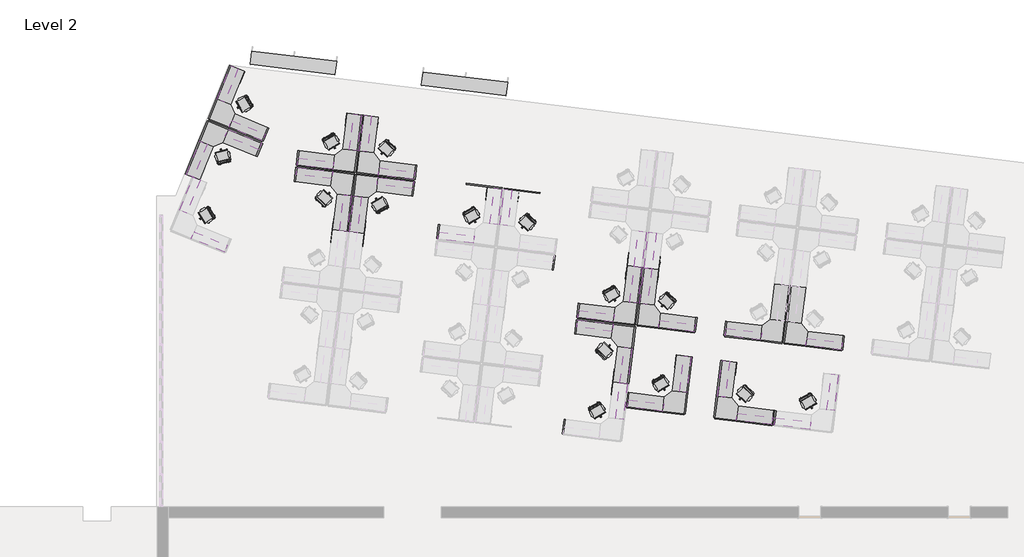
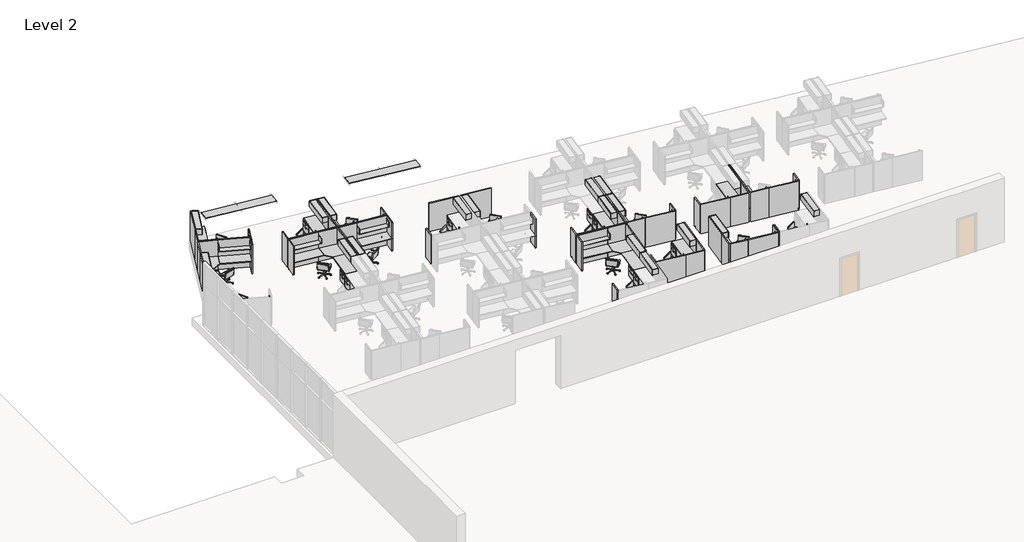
# One storey, part 6 of 7: 99 furniture elements, 2 proxies.
"""IFC4 building model written with IfcOpenShell, lengths in millimetres."""

from ifc_helpers import new_model, si_unit, origin, place, context, project, spatial, transform, mapped, element, save
from components import shading_device_shading_device_a76b5041, chair_task_arms_chair_task_arms_3b363349, chair_task_arms_chair_task_arms_8395c10b, furniture_665347ce, furniture_3ceed070, furniture_00cef8f1, furniture_8d825890, overhead_shelving_module_overhead_shelving_module_3ee17988, overhead_shelving_module_overhead_shelving_module_7dcda1b9, overhead_storage_module_overhead_storage_module_326dc690, overhead_storage_module_overhead_storage_module_bea9f75f, furniture_0333d240, furniture_4718bb14, furniture_45e3acac, furniture_7b33082a

model = new_model("IFC4")

# Units and contexts
model_context = context("Model", 3, world=origin())
ifc_project = project(units=[si_unit("LENGTHUNIT", "METRE", prefix="MILLI")], contexts=[model_context])

# Site, building, storey
site = spatial("IfcSite", under=ifc_project)
building = spatial("IfcBuilding", under=site)
storey = spatial("IfcBuildingStorey", under=building, Name="Level 2", Elevation=3657.6)

# Proxies
placement = place(None, origin())
shading_device_shading_device_shape = shading_device_shading_device_a76b5041(model_context)
element("IfcBuildingElementProxy", 1, Name="Shading Device : Shading Device", ObjectType="Shading Device : Shading Device", at=placement, inside=storey, context=model_context, shape_type="MappedRepresentation", body=[
    mapped(shading_device_shading_device_shape, transform((-25680.4386988, 15088.49944, 4572.0), x_axis=(-0.9925461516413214, 0.12186934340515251, 0.0), y_axis=(-0.12186934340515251, -0.9925461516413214, 0.0), z_axis=(0.0, 0.0, 1.0))),
])
element("IfcBuildingElementProxy", 2, Name="Shading Device : Shading Device", ObjectType="Shading Device : Shading Device", at=placement, inside=storey, context=model_context, shape_type="MappedRepresentation", body=[
    mapped(shading_device_shading_device_shape, transform((-18419.7650903, 14197.0008192, 4572.0), x_axis=(-0.9925461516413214, 0.12186934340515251, 0.0), y_axis=(-0.12186934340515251, -0.9925461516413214, 0.0), z_axis=(0.0, 0.0, 1.0))),
])

# Furniture
chair_task_arms_chair_task_arms_shape = chair_task_arms_chair_task_arms_3b363349(model_context)
element("IfcFurniture", 3, ObjectType="Chair-Task Arms : Chair-Task Arms", at=placement, inside=storey, context=model_context, shape_type="MappedRepresentation", body=[
    mapped(chair_task_arms_chair_task_arms_shape, transform((-23352.4193491, 11903.0432182, 3657.6), x_axis=(-0.7193398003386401, 0.6946583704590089, 0.0), y_axis=(-0.6946583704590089, -0.7193398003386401, 0.0), z_axis=(0.0, 0.0, 1.0))),
])
element("IfcFurniture", 4, ObjectType="Chair-Task Arms : Chair-Task Arms", at=placement, inside=storey, context=model_context, shape_type="MappedRepresentation", body=[
    mapped(chair_task_arms_chair_task_arms_shape, transform((-17391.147875, 8765.5606586, 3657.6), x_axis=(-0.7193398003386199, 0.6946583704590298, 0.0), y_axis=(-0.6946583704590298, -0.7193398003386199, 0.0), z_axis=(0.0, 0.0, 1.0))),
])
element("IfcFurniture", 5, ObjectType="Chair-Task Arms : Chair-Task Arms", at=placement, inside=storey, context=model_context, shape_type="MappedRepresentation", body=[
    mapped(chair_task_arms_chair_task_arms_shape, transform((-14358.0359457, 3469.8400502, 3657.6), x_axis=(0.7193398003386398, -0.6946583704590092, 0.0), y_axis=(0.6946583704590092, 0.7193398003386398, 0.0), z_axis=(0.0, 0.0, 1.0))),
])
element("IfcFurniture", 6, ObjectType="Chair-Task Arms : Chair-Task Arms", at=placement, inside=storey, context=model_context, shape_type="MappedRepresentation", body=[
    mapped(chair_task_arms_chair_task_arms_shape, transform((-11454.6402515, 5426.3927209, 3657.6), x_axis=(-0.7193398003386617, 0.6946583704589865, 0.0), y_axis=(-0.6946583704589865, -0.7193398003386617, 0.0), z_axis=(0.0, 0.0, 1.0))),
])
element("IfcFurniture", 7, ObjectType="Chair-Task Arms : Chair-Task Arms", at=placement, inside=storey, context=model_context, shape_type="MappedRepresentation", body=[
    mapped(chair_task_arms_chair_task_arms_shape, transform((-26255.8150433, 9946.4905474, 3657.6), x_axis=(0.7193398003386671, -0.6946583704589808, 0.0), y_axis=(0.6946583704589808, 0.7193398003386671, 0.0), z_axis=(0.0, 0.0, 1.0))),
])
element("IfcFurniture", 8, ObjectType="Chair-Task Arms : Chair-Task Arms", at=placement, inside=storey, context=model_context, shape_type="MappedRepresentation", body=[
    mapped(chair_task_arms_chair_task_arms_shape, transform((-29421.3744907, 13765.940724, 3657.6), x_axis=(-0.5113844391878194, 0.8593520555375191, 0.0), y_axis=(-0.8593520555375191, -0.5113844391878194, 0.0), z_axis=(0.0, 0.0, 1.0))),
])
element("IfcFurniture", 9, ObjectType="Chair-Task Arms : Chair-Task Arms", at=placement, inside=storey, context=model_context, shape_type="MappedRepresentation", body=[
    mapped(chair_task_arms_chair_task_arms_shape, transform((-31023.8319386, 9042.6474103, 3657.6), x_axis=(-0.5113844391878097, 0.8593520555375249, 0.0), y_axis=(-0.8593520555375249, -0.5113844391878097, 0.0), z_axis=(0.0, 0.0, 1.0))),
])
element("IfcFurniture", 10, ObjectType="Chair-Task Arms : Chair-Task Arms", at=placement, inside=storey, context=model_context, shape_type="MappedRepresentation", body=[
    mapped(chair_task_arms_chair_task_arms_shape, transform((-8151.4574, 1482.5085649, 3657.6), x_axis=(-0.7193398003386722, 0.6946583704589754, 0.0), y_axis=(-0.6946583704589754, -0.7193398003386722, 0.0), z_axis=(0.0, 0.0, 1.0))),
])
chair_task_arms_chair_task_arms_2_shape = chair_task_arms_chair_task_arms_8395c10b(model_context)
element("IfcFurniture", 11, ObjectType="Chair-Task Arms : Chair-Task Arms", at=placement, inside=storey, context=model_context, shape_type="MappedRepresentation", body=[
    mapped(chair_task_arms_chair_task_arms_2_shape, transform((-20014.7554735, 9087.6991655, 3657.6), x_axis=(0.866025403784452, 0.4999999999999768, 0.0), y_axis=(-0.4999999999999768, 0.866025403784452, 0.0), z_axis=(0.0, 0.0, 1.0))),
])
element("IfcFurniture", 12, ObjectType="Chair-Task Arms : Chair-Task Arms", at=placement, inside=storey, context=model_context, shape_type="MappedRepresentation", body=[
    mapped(chair_task_arms_chair_task_arms_2_shape, transform((-23632.2074448, 9624.3520405, 3657.6), x_axis=(-0.8660254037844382, -0.5000000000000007, 0.0), y_axis=(0.5000000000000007, -0.8660254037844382, 0.0), z_axis=(0.0, 0.0, 1.0))),
])
element("IfcFurniture", 13, ObjectType="Chair-Task Arms : Chair-Task Arms", at=placement, inside=storey, context=model_context, shape_type="MappedRepresentation", body=[
    mapped(chair_task_arms_chair_task_arms_2_shape, transform((-14078.24785, 5748.5312279, 3657.6), x_axis=(0.8660254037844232, 0.5000000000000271, 0.0), y_axis=(-0.5000000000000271, 0.8660254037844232, 0.0), z_axis=(0.0, 0.0, 1.0))),
])
element("IfcFurniture", 14, ObjectType="Chair-Task Arms : Chair-Task Arms", at=placement, inside=storey, context=model_context, shape_type="MappedRepresentation", body=[
    mapped(chair_task_arms_chair_task_arms_2_shape, transform((-14684.9621892, 807.2394665, 3657.6), x_axis=(0.8660254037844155, 0.5000000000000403, 0.0), y_axis=(-0.5000000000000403, 0.8660254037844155, 0.0), z_axis=(0.0, 0.0, 1.0))),
])
element("IfcFurniture", 15, ObjectType="Chair-Task Arms : Chair-Task Arms", at=placement, inside=storey, context=model_context, shape_type="MappedRepresentation", body=[
    mapped(chair_task_arms_chair_task_arms_2_shape, transform((-25976.0269476, 12225.1817252, 3657.6), x_axis=(0.8660254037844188, 0.5000000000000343, 0.0), y_axis=(-0.5000000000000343, 0.8660254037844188, 0.0), z_axis=(0.0, 0.0, 1.0))),
])
element("IfcFurniture", 16, ObjectType="Chair-Task Arms : Chair-Task Arms", at=placement, inside=storey, context=model_context, shape_type="MappedRepresentation", body=[
    mapped(chair_task_arms_chair_task_arms_2_shape, transform((-30290.4515264, 11640.9889674, 3657.6), x_axis=(-0.9670188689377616, -0.2547047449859, 0.0), y_axis=(0.2547047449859, -0.9670188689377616, 0.0), z_axis=(0.0, 0.0, 1.0))),
])
element("IfcFurniture", 17, ObjectType="Chair-Task Arms : Chair-Task Arms", at=placement, inside=storey, context=model_context, shape_type="MappedRepresentation", body=[
    mapped(chair_task_arms_chair_task_arms_2_shape, transform((-11985.1772665, 1953.2301754, 3657.6), x_axis=(0.8660254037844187, 0.5000000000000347, 0.0), y_axis=(-0.5000000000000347, 0.8660254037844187, 0.0), z_axis=(0.0, 0.0, 1.0))),
])
element("IfcFurniture", 18, ObjectType="Chair-Task Arms : Chair-Task Arms", at=placement, inside=storey, context=model_context, shape_type="MappedRepresentation", body=[
    mapped(chair_task_arms_chair_task_arms_2_shape, transform((-5732.9305481, 1185.5508074, 3657.6), x_axis=(0.8660254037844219, 0.5000000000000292, 0.0), y_axis=(-0.5000000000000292, 0.8660254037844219, 0.0), z_axis=(0.0, 0.0, 1.0))),
])
furniture_shape = furniture_665347ce(model_context)
element("IfcFurniture", 19, ObjectType="Cube Panel : 24\" x 66\"", at=placement, inside=storey, context=model_context, shape_type="MappedRepresentation", body=[
    mapped(furniture_shape, transform((-22264.9239048, 10971.2636434, 3657.6), x_axis=(0.12186934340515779, 0.9925461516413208, 0.0), y_axis=(-0.9925461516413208, 0.12186934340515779, 0.0), z_axis=(0.0, 0.0, 1.0))),
])
element("IfcFurniture", 20, ObjectType="Cube Panel : 24\" x 66\"", at=placement, inside=storey, context=model_context, shape_type="MappedRepresentation", body=[
    mapped(furniture_shape, transform((-15445.53139, 4401.6196249, 3657.6), x_axis=(-0.12186934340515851, -0.9925461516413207, 0.0), y_axis=(0.9925461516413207, -0.12186934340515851, 0.0), z_axis=(0.0, 0.0, 1.0))),
])
element("IfcFurniture", 21, ObjectType="Cube Panel : 24\" x 66\"", at=placement, inside=storey, context=model_context, shape_type="MappedRepresentation", body=[
    mapped(furniture_shape, transform((-10367.1448072, 4494.6131461, 3657.6), x_axis=(0.12186934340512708, 0.9925461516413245, 0.0), y_axis=(-0.9925461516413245, 0.12186934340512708, 0.0), z_axis=(0.0, 0.0, 1.0))),
])
element("IfcFurniture", 22, ObjectType="Cube Panel : 24\" x 66\"", at=placement, inside=storey, context=model_context, shape_type="MappedRepresentation", body=[
    mapped(furniture_shape, transform((-4114.8980887, 3726.9337782, 3657.6), x_axis=(0.12186934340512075, 0.9925461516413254, 0.0), y_axis=(-0.9925461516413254, 0.12186934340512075, 0.0), z_axis=(0.0, 0.0, 1.0))),
])
element("IfcFurniture", 23, ObjectType="Cube Panel : 24\" x 66\"", at=placement, inside=storey, context=model_context, shape_type="MappedRepresentation", body=[
    mapped(furniture_shape, transform((-27343.3104877, 10878.2701222, 3657.6), x_axis=(-0.12186934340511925, -0.9925461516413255, 0.0), y_axis=(0.9925461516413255, -0.12186934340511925, 0.0), z_axis=(0.0, 0.0, 1.0))),
])
element("IfcFurniture", 24, ObjectType="Cube Panel : 24\" x 66\"", at=placement, inside=storey, context=model_context, shape_type="MappedRepresentation", body=[
    mapped(furniture_shape, transform((-28617.1338204, 12581.0118393, 3657.6), x_axis=(0.37855022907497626, 0.9255807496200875, 0.0), y_axis=(-0.9255807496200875, 0.37855022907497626, 0.0), z_axis=(0.0, 0.0, 1.0))),
])
element("IfcFurniture", 25, ObjectType="Cube Panel : 24\" x 66\"", at=placement, inside=storey, context=model_context, shape_type="MappedRepresentation", body=[
    mapped(furniture_shape, transform((-7063.9619556, 550.7289902, 3657.6), x_axis=(0.12186934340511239, 0.9925461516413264, 0.0), y_axis=(-0.9925461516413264, 0.12186934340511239, 0.0), z_axis=(0.0, 0.0, 1.0))),
])
furniture_2_shape = furniture_3ceed070(model_context)
element("IfcFurniture", 26, ObjectType="Cube Panel : 24\" x 66\"", at=placement, inside=storey, context=model_context, shape_type="MappedRepresentation", body=[
    mapped(furniture_2_shape, transform((-21295.3655365, 8446.6863856, 3657.6), x_axis=(0.12186934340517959, 0.9925461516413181, 0.0), y_axis=(-0.9925461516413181, 0.12186934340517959, 0.0), z_axis=(0.0, 0.0, 1.0))),
])
element("IfcFurniture", 27, ObjectType="Cube Panel : 24\" x 66\"", at=placement, inside=storey, context=model_context, shape_type="MappedRepresentation", body=[
    mapped(furniture_2_shape, transform((-22351.5973818, 10265.3648204, 3657.6), x_axis=(-0.12186934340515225, -0.9925461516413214, 0.0), y_axis=(0.9925461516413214, -0.12186934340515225, 0.0), z_axis=(0.0, 0.0, 1.0))),
])
element("IfcFurniture", 28, ObjectType="Cube Panel : 24\" x 66\"", at=placement, inside=storey, context=model_context, shape_type="MappedRepresentation", body=[
    mapped(furniture_2_shape, transform((-16390.3259077, 7127.8822607, 3657.6), x_axis=(-0.12186934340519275, -0.9925461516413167, 0.0), y_axis=(0.9925461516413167, -0.12186934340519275, 0.0), z_axis=(0.0, 0.0, 1.0))),
])
element("IfcFurniture", 29, ObjectType="Cube Panel : 24\" x 66\"", at=placement, inside=storey, context=model_context, shape_type="MappedRepresentation", body=[
    mapped(furniture_2_shape, transform((-15358.857913, 5107.518448, 3657.6), x_axis=(0.12186934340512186, 0.9925461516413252, 0.0), y_axis=(-0.9925461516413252, 0.12186934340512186, 0.0), z_axis=(0.0, 0.0, 1.0))),
])
element("IfcFurniture", 30, ObjectType="Cube Panel : 24\" x 66\"", at=placement, inside=storey, context=model_context, shape_type="MappedRepresentation", body=[
    mapped(furniture_2_shape, transform((-15965.5722522, 166.2266867, 3657.6), x_axis=(0.12186934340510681, 0.9925461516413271, 0.0), y_axis=(-0.9925461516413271, 0.12186934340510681, 0.0), z_axis=(0.0, 0.0, 1.0))),
])
element("IfcFurniture", 31, ObjectType="Cube Panel : 24\" x 66\"", at=placement, inside=storey, context=model_context, shape_type="MappedRepresentation", body=[
    mapped(furniture_2_shape, transform((-9106.6111946, 4339.83908, 3657.6), x_axis=(0.1218693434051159, 0.992546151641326, 0.0), y_axis=(-0.992546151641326, 0.1218693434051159, 0.0), z_axis=(0.0, 0.0, 1.0))),
])
element("IfcFurniture", 32, ObjectType="Cube Panel : 24\" x 66\"", at=placement, inside=storey, context=model_context, shape_type="MappedRepresentation", body=[
    mapped(furniture_2_shape, transform((-27256.6370106, 11584.1689453, 3657.6), x_axis=(0.12186934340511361, 0.9925461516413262, 0.0), y_axis=(-0.9925461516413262, 0.12186934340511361, 0.0), z_axis=(0.0, 0.0, 1.0))),
])
element("IfcFurniture", 33, ObjectType="Cube Panel : 24\" x 66\"", at=placement, inside=storey, context=model_context, shape_type="MappedRepresentation", body=[
    mapped(furniture_2_shape, transform((-28886.3587433, 11922.7388102, 3657.6), x_axis=(-0.37855022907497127, -0.9255807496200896, 0.0), y_axis=(0.9255807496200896, -0.37855022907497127, 0.0), z_axis=(0.0, 0.0, 1.0))),
])
element("IfcFurniture", 34, ObjectType="Cube Panel : 24\" x 66\"", at=placement, inside=storey, context=model_context, shape_type="MappedRepresentation", body=[
    mapped(furniture_2_shape, transform((-13265.7873296, 1312.2173955, 3657.6), x_axis=(0.12186934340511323, 0.9925461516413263, 0.0), y_axis=(-0.9925461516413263, 0.12186934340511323, 0.0), z_axis=(0.0, 0.0, 1.0))),
])
element("IfcFurniture", 35, ObjectType="Cube Panel : 24\" x 66\"", at=placement, inside=storey, context=model_context, shape_type="MappedRepresentation", body=[
    mapped(furniture_2_shape, transform((-7013.5406111, 544.5380275, 3657.6), x_axis=(0.12186934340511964, 0.9925461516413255, 0.0), y_axis=(-0.9925461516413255, 0.12186934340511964, 0.0), z_axis=(0.0, 0.0, 1.0))),
])
furniture_3_shape = furniture_00cef8f1(model_context)
element("IfcFurniture", 36, ObjectType="Cube Panel : 60\" x 66\"", at=placement, inside=storey, context=model_context, shape_type="MappedRepresentation", body=[
    mapped(furniture_3_shape, transform((-17729.6515591, 10184.0854738, 3657.6), x_axis=(0.9925461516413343, -0.12186934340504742, 0.0), y_axis=(0.12186934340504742, 0.9925461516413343, 0.0), z_axis=(0.0, 0.0, 1.0))),
])
furniture_4_shape = furniture_8d825890(model_context)
element("IfcFurniture", 37, ObjectType="Cube Panel : 60\" x 66\"", at=placement, inside=storey, context=model_context, shape_type="MappedRepresentation", body=[
    mapped(furniture_4_shape, transform((-19343.1345832, 10382.1962784, 3657.6), x_axis=(-0.9925461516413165, 0.12186934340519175, 0.0), y_axis=(-0.12186934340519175, -0.9925461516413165, 0.0), z_axis=(0.0, 0.0, 1.0))),
])
overhead_shelving_module_overhead_shelving_module_shape = overhead_shelving_module_overhead_shelving_module_3ee17988(model_context)
element("IfcFurniture", 38, ObjectType="Overhead Shelving Module : Overhead Shelving Module", at=placement, inside=storey, context=model_context, shape_type="MappedRepresentation", body=[
    mapped(overhead_shelving_module_overhead_shelving_module_shape, transform((-23211.4257966, 11018.3276546, 3505.2), x_axis=(-0.9925461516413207, 0.1218693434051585, 0.0), y_axis=(-0.1218693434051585, -0.9925461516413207, 0.0), z_axis=(0.0, 0.0, 1.0))),
])
element("IfcFurniture", 39, ObjectType="Overhead Shelving Module : Overhead Shelving Module", at=placement, inside=storey, context=model_context, shape_type="MappedRepresentation", body=[
    mapped(overhead_shelving_module_overhead_shelving_module_shape, transform((-14499.0294982, 4354.5556138, 3505.2), x_axis=(0.9925461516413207, -0.12186934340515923, 0.0), y_axis=(0.12186934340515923, 0.9925461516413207, 0.0), z_axis=(0.0, 0.0, 1.0))),
])
element("IfcFurniture", 40, ObjectType="Overhead Shelving Module : Overhead Shelving Module", at=placement, inside=storey, context=model_context, shape_type="MappedRepresentation", body=[
    mapped(overhead_shelving_module_overhead_shelving_module_shape, transform((-11313.646699, 4541.6771573, 3505.2), x_axis=(-0.9925461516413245, 0.1218693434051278, 0.0), y_axis=(-0.1218693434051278, -0.9925461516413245, 0.0), z_axis=(0.0, 0.0, 1.0))),
])
element("IfcFurniture", 41, ObjectType="Overhead Shelving Module : Overhead Shelving Module", at=placement, inside=storey, context=model_context, shape_type="MappedRepresentation", body=[
    mapped(overhead_shelving_module_overhead_shelving_module_shape, transform((-5061.3999806, 3773.9977893, 3505.2), x_axis=(-0.9925461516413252, 0.12186934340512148, 0.0), y_axis=(-0.12186934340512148, -0.9925461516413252, 0.0), z_axis=(0.0, 0.0, 1.0))),
])
element("IfcFurniture", 42, ObjectType="Overhead Shelving Module : Overhead Shelving Module", at=placement, inside=storey, context=model_context, shape_type="MappedRepresentation", body=[
    mapped(overhead_shelving_module_overhead_shelving_module_shape, transform((-26396.8085958, 10831.2061111, 3505.2), x_axis=(0.9925461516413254, -0.12186934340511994, 0.0), y_axis=(0.12186934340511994, 0.9925461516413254, 0.0), z_axis=(0.0, 0.0, 1.0))),
])
element("IfcFurniture", 43, ObjectType="Overhead Shelving Module : Overhead Shelving Module", at=placement, inside=storey, context=model_context, shape_type="MappedRepresentation", body=[
    mapped(overhead_shelving_module_overhead_shelving_module_shape, transform((-29517.9588301, 12875.2823856, 3505.2), x_axis=(-0.9255807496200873, 0.378550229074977, 0.0), y_axis=(-0.378550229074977, -0.9255807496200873, 0.0), z_axis=(0.0, 0.0, 1.0))),
])
element("IfcFurniture", 44, ObjectType="Overhead Shelving Module : Overhead Shelving Module", at=placement, inside=storey, context=model_context, shape_type="MappedRepresentation", body=[
    mapped(overhead_shelving_module_overhead_shelving_module_shape, transform((-31120.416278, 8151.9890719, 3505.2), x_axis=(-0.9255807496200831, 0.37855022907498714, 0.0), y_axis=(-0.37855022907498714, -0.9255807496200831, 0.0), z_axis=(0.0, 0.0, 1.0))),
])
element("IfcFurniture", 45, ObjectType="Overhead Shelving Module : Overhead Shelving Module", at=placement, inside=storey, context=model_context, shape_type="MappedRepresentation", body=[
    mapped(overhead_shelving_module_overhead_shelving_module_shape, transform((-8010.4638475, 597.7930013, 3505.2), x_axis=(-0.9925461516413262, 0.12186934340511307, 0.0), y_axis=(-0.12186934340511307, -0.9925461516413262, 0.0), z_axis=(0.0, 0.0, 1.0))),
])
overhead_shelving_module_overhead_shelving_module_2_shape = overhead_shelving_module_overhead_shelving_module_7dcda1b9(model_context)
element("IfcFurniture", 46, ObjectType="Overhead Shelving Module : Overhead Shelving Module", at=placement, inside=storey, context=model_context, shape_type="MappedRepresentation", body=[
    mapped(overhead_shelving_module_overhead_shelving_module_2_shape, transform((-20365.5929812, 8263.3728626, 3505.2), x_axis=(0.9925461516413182, -0.12186934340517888, 0.0), y_axis=(0.12186934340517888, 0.9925461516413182, 0.0), z_axis=(0.0, 0.0, 1.0))),
])
element("IfcFurniture", 47, ObjectType="Overhead Shelving Module : Overhead Shelving Module", at=placement, inside=storey, context=model_context, shape_type="MappedRepresentation", body=[
    mapped(overhead_shelving_module_overhead_shelving_module_2_shape, transform((-23281.3699372, 10448.6783434, 3505.2), x_axis=(-0.9925461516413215, 0.12186934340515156, 0.0), y_axis=(-0.12186934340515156, -0.9925461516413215, 0.0), z_axis=(0.0, 0.0, 1.0))),
])
element("IfcFurniture", 48, ObjectType="Overhead Shelving Module : Overhead Shelving Module", at=placement, inside=storey, context=model_context, shape_type="MappedRepresentation", body=[
    mapped(overhead_shelving_module_overhead_shelving_module_2_shape, transform((-14429.0853576, 4924.204925, 3505.2), x_axis=(0.9925461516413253, -0.12186934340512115, 0.0), y_axis=(0.12186934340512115, 0.9925461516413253, 0.0), z_axis=(0.0, 0.0, 1.0))),
])
element("IfcFurniture", 49, ObjectType="Overhead Shelving Module : Overhead Shelving Module", at=placement, inside=storey, context=model_context, shape_type="MappedRepresentation", body=[
    mapped(overhead_shelving_module_overhead_shelving_module_2_shape, transform((-8176.8386392, 4156.525557, 3505.2), x_axis=(0.9925461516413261, -0.12186934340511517, 0.0), y_axis=(0.12186934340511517, 0.9925461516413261, 0.0), z_axis=(0.0, 0.0, 1.0))),
])
element("IfcFurniture", 50, ObjectType="Overhead Shelving Module : Overhead Shelving Module", at=placement, inside=storey, context=model_context, shape_type="MappedRepresentation", body=[
    mapped(overhead_shelving_module_overhead_shelving_module_2_shape, transform((-26326.8644553, 11400.8554223, 3505.2), x_axis=(0.9925461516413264, -0.12186934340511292, 0.0), y_axis=(0.12186934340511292, 0.9925461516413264, 0.0), z_axis=(0.0, 0.0, 1.0))),
])
element("IfcFurniture", 51, ObjectType="Overhead Shelving Module : Overhead Shelving Module", at=placement, inside=storey, context=model_context, shape_type="MappedRepresentation", body=[
    mapped(overhead_shelving_module_overhead_shelving_module_2_shape, transform((-29735.2191327, 12344.0663453, 3505.2), x_axis=(-0.9255807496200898, 0.3785502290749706, 0.0), y_axis=(-0.3785502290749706, -0.9255807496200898, 0.0), z_axis=(0.0, 0.0, 1.0))),
])
element("IfcFurniture", 52, ObjectType="Overhead Shelving Module : Overhead Shelving Module", at=placement, inside=storey, context=model_context, shape_type="MappedRepresentation", body=[
    mapped(overhead_shelving_module_overhead_shelving_module_2_shape, transform((-12336.0147742, 1128.9038725, 3505.2), x_axis=(0.9925461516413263, -0.1218693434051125, 0.0), y_axis=(0.1218693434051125, 0.9925461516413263, 0.0), z_axis=(0.0, 0.0, 1.0))),
])
element("IfcFurniture", 53, ObjectType="Overhead Shelving Module : Overhead Shelving Module", at=placement, inside=storey, context=model_context, shape_type="MappedRepresentation", body=[
    mapped(overhead_shelving_module_overhead_shelving_module_2_shape, transform((-6083.7680558, 361.2245045, 3505.2), x_axis=(0.9925461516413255, -0.12186934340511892, 0.0), y_axis=(0.12186934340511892, 0.9925461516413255, 0.0), z_axis=(0.0, 0.0, 1.0))),
])
overhead_storage_module_overhead_storage_module_shape = overhead_storage_module_overhead_storage_module_326dc690(model_context)
element("IfcFurniture", 54, ObjectType="Overhead Storage Module : Overhead Storage Module", at=placement, inside=storey, context=model_context, shape_type="MappedRepresentation", body=[
    mapped(overhead_storage_module_overhead_storage_module_shape, transform((-24289.5709646, 12760.7269095, 3657.6), x_axis=(0.12186934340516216, 0.9925461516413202, 0.0), y_axis=(-0.9925461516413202, 0.12186934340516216, 0.0), z_axis=(0.0, 0.0, 1.0))),
])
element("IfcFurniture", 55, ObjectType="Overhead Storage Module : Overhead Storage Module", at=placement, inside=storey, context=model_context, shape_type="MappedRepresentation", body=[
    mapped(overhead_storage_module_overhead_storage_module_shape, transform((-18328.2994905, 9623.2443498, 3657.6), x_axis=(0.12186934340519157, 0.9925461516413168, 0.0), y_axis=(-0.9925461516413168, 0.12186934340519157, 0.0), z_axis=(0.0, 0.0, 1.0))),
])
element("IfcFurniture", 56, ObjectType="Overhead Storage Module : Overhead Storage Module", at=placement, inside=storey, context=model_context, shape_type="MappedRepresentation", body=[
    mapped(overhead_storage_module_overhead_storage_module_shape, transform((-12814.169991, 7553.4481202, 3657.6), x_axis=(-0.12186934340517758, -0.9925461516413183, 0.0), y_axis=(0.9925461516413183, -0.12186934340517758, 0.0), z_axis=(0.0, 0.0, 1.0))),
])
element("IfcFurniture", 57, ObjectType="Overhead Storage Module : Overhead Storage Module", at=placement, inside=storey, context=model_context, shape_type="MappedRepresentation", body=[
    mapped(overhead_storage_module_overhead_storage_module_shape, transform((-13420.8843302, 2612.1563589, 3657.6), x_axis=(-0.12186934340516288, -0.9925461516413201, 0.0), y_axis=(0.9925461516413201, -0.12186934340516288, 0.0), z_axis=(0.0, 0.0, 1.0))),
])
element("IfcFurniture", 58, ObjectType="Overhead Storage Module : Overhead Storage Module", at=placement, inside=storey, context=model_context, shape_type="MappedRepresentation", body=[
    mapped(overhead_storage_module_overhead_storage_module_shape, transform((-12391.791867, 6284.0764122, 3657.6), x_axis=(0.12186934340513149, 0.9925461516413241, 0.0), y_axis=(-0.9925461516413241, 0.12186934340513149, 0.0), z_axis=(0.0, 0.0, 1.0))),
])
element("IfcFurniture", 59, ObjectType="Overhead Storage Module : Overhead Storage Module", at=placement, inside=storey, context=model_context, shape_type="MappedRepresentation", body=[
    mapped(overhead_storage_module_overhead_storage_module_shape, transform((-25318.6634278, 9088.8068562, 3657.6), x_axis=(-0.12186934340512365, -0.992546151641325, 0.0), y_axis=(0.992546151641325, -0.12186934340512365, 0.0), z_axis=(0.0, 0.0, 1.0))),
])
element("IfcFurniture", 60, ObjectType="Overhead Storage Module : Overhead Storage Module", at=placement, inside=storey, context=model_context, shape_type="MappedRepresentation", body=[
    mapped(overhead_storage_module_overhead_storage_module_shape, transform((-30100.0430687, 14839.8510675, 3657.6), x_axis=(0.3785502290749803, 0.9255807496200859, 0.0), y_axis=(-0.9255807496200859, 0.3785502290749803, 0.0), z_axis=(0.0, 0.0, 1.0))),
])
element("IfcFurniture", 61, ObjectType="Overhead Storage Module : Overhead Storage Module", at=placement, inside=storey, context=model_context, shape_type="MappedRepresentation", body=[
    mapped(overhead_storage_module_overhead_storage_module_shape, transform((-31702.5005167, 10116.5577538, 3657.6), x_axis=(0.37855022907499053, 0.9255807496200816, 0.0), y_axis=(-0.9255807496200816, 0.37855022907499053, 0.0), z_axis=(0.0, 0.0, 1.0))),
])
element("IfcFurniture", 62, ObjectType="Overhead Storage Module : Overhead Storage Module", at=placement, inside=storey, context=model_context, shape_type="MappedRepresentation", body=[
    mapped(overhead_storage_module_overhead_storage_module_shape, transform((-9088.6090155, 2340.1922562, 3657.6), x_axis=(0.12186934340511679, 0.9925461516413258, 0.0), y_axis=(-0.9925461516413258, 0.12186934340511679, 0.0), z_axis=(0.0, 0.0, 1.0))),
])
overhead_storage_module_overhead_storage_module_2_shape = overhead_storage_module_overhead_storage_module_bea9f75f(model_context)
element("IfcFurniture", 63, ObjectType="Overhead Storage Module : Overhead Storage Module", at=placement, inside=storey, context=model_context, shape_type="MappedRepresentation", body=[
    mapped(overhead_storage_module_overhead_storage_module_2_shape, transform((-18897.9488017, 9693.1884904, 3657.6), x_axis=(0.1218693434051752, 0.9925461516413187, 0.0), y_axis=(-0.9925461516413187, 0.1218693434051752, 0.0), z_axis=(0.0, 0.0, 1.0))),
])
element("IfcFurniture", 64, ObjectType="Overhead Storage Module : Overhead Storage Module", at=placement, inside=storey, context=model_context, shape_type="MappedRepresentation", body=[
    mapped(overhead_storage_module_overhead_storage_module_2_shape, transform((-24749.0141166, 9018.8627156, 3657.6), x_axis=(-0.12186934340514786, -0.992546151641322, 0.0), y_axis=(0.992546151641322, -0.12186934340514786, 0.0), z_axis=(0.0, 0.0, 1.0))),
])
element("IfcFurniture", 65, ObjectType="Overhead Storage Module : Overhead Storage Module", at=placement, inside=storey, context=model_context, shape_type="MappedRepresentation", body=[
    mapped(overhead_storage_module_overhead_storage_module_2_shape, transform((-12961.4411782, 6354.0205527, 3657.6), x_axis=(0.12186934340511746, 0.9925461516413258, 0.0), y_axis=(-0.9925461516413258, 0.12186934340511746, 0.0), z_axis=(0.0, 0.0, 1.0))),
])
element("IfcFurniture", 66, ObjectType="Overhead Storage Module : Overhead Storage Module", at=placement, inside=storey, context=model_context, shape_type="MappedRepresentation", body=[
    mapped(overhead_storage_module_overhead_storage_module_2_shape, transform((-13568.1555174, 1412.7287914, 3657.6), x_axis=(0.1218693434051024, 0.9925461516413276, 0.0), y_axis=(-0.9925461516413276, 0.1218693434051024, 0.0), z_axis=(0.0, 0.0, 1.0))),
])
element("IfcFurniture", 67, ObjectType="Overhead Storage Module : Overhead Storage Module", at=placement, inside=storey, context=model_context, shape_type="MappedRepresentation", body=[
    mapped(overhead_storage_module_overhead_storage_module_2_shape, transform((-12244.5206798, 7483.5039797, 3657.6), x_axis=(-0.12186934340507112, -0.9925461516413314, 0.0), y_axis=(0.9925461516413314, -0.12186934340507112, 0.0), z_axis=(0.0, 0.0, 1.0))),
])
element("IfcFurniture", 68, ObjectType="Overhead Storage Module : Overhead Storage Module", at=placement, inside=storey, context=model_context, shape_type="MappedRepresentation", body=[
    mapped(overhead_storage_module_overhead_storage_module_2_shape, transform((-24859.2202758, 12830.67105, 3657.6), x_axis=(0.12186934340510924, 0.9925461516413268, 0.0), y_axis=(-0.9925461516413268, 0.12186934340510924, 0.0), z_axis=(0.0, 0.0, 1.0))),
])
element("IfcFurniture", 69, ObjectType="Overhead Storage Module : Overhead Storage Module", at=placement, inside=storey, context=model_context, shape_type="MappedRepresentation", body=[
    mapped(overhead_storage_module_overhead_storage_module_2_shape, transform((-31527.1641607, 11350.4440915, 3657.6), x_axis=(-0.3785502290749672, -0.9255807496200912, 0.0), y_axis=(0.9255807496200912, -0.3785502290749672, 0.0), z_axis=(0.0, 0.0, 1.0))),
])
element("IfcFurniture", 70, ObjectType="Overhead Storage Module : Overhead Storage Module", at=placement, inside=storey, context=model_context, shape_type="MappedRepresentation", body=[
    mapped(overhead_storage_module_overhead_storage_module_2_shape, transform((-10868.3705948, 2558.7195002, 3657.6), x_axis=(0.12186934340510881, 0.9925461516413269, 0.0), y_axis=(-0.9925461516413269, 0.12186934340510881, 0.0), z_axis=(0.0, 0.0, 1.0))),
])
element("IfcFurniture", 71, ObjectType="Overhead Storage Module : Overhead Storage Module", at=placement, inside=storey, context=model_context, shape_type="MappedRepresentation", body=[
    mapped(overhead_storage_module_overhead_storage_module_2_shape, transform((-4616.1238763, 1791.0401323, 3657.6), x_axis=(0.12186934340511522, 0.9925461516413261, 0.0), y_axis=(-0.9925461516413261, 0.12186934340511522, 0.0), z_axis=(0.0, 0.0, 1.0))),
])
furniture_5_shape = furniture_0333d240(model_context)
element("IfcFurniture", 72, ObjectType="Storage Pedestal : 20\" x 30\" x 36\"", at=placement, inside=storey, context=model_context, shape_type="MappedRepresentation", body=[
    mapped(furniture_5_shape, transform((-25017.946444, 13358.791477, 3657.6), x_axis=(0.12186934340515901, 0.9925461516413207, 0.0), y_axis=(-0.9925461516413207, 0.12186934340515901, 0.0), z_axis=(0.0, 0.0, 1.0))),
])
element("IfcFurniture", 73, ObjectType="Storage Pedestal : 20\" x 30\" x 36\"", at=placement, inside=storey, context=model_context, shape_type="MappedRepresentation", body=[
    mapped(furniture_5_shape, transform((-19056.6749698, 10221.3089174, 3657.6), x_axis=(0.12186934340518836, 0.9925461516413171, 0.0), y_axis=(-0.9925461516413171, 0.12186934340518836, 0.0), z_axis=(0.0, 0.0, 1.0))),
])
element("IfcFurniture", 74, ObjectType="Storage Pedestal : 20\" x 30\" x 36\"", at=placement, inside=storey, context=model_context, shape_type="MappedRepresentation", body=[
    mapped(furniture_5_shape, transform((-12085.7945117, 6955.3835527, 3657.6), x_axis=(-0.12186934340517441, -0.9925461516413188, 0.0), y_axis=(0.9925461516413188, -0.12186934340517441, 0.0), z_axis=(0.0, 0.0, 1.0))),
])
element("IfcFurniture", 75, ObjectType="Storage Pedestal : 20\" x 30\" x 36\"", at=placement, inside=storey, context=model_context, shape_type="MappedRepresentation", body=[
    mapped(furniture_5_shape, transform((-25624.6607832, 8417.4997157, 3657.6), x_axis=(0.12186934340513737, 0.9925461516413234, 0.0), y_axis=(-0.9925461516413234, 0.12186934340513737, 0.0), z_axis=(0.0, 0.0, 1.0))),
])
element("IfcFurniture", 76, ObjectType="Storage Pedestal : 20\" x 30\" x 36\"", at=placement, inside=storey, context=model_context, shape_type="MappedRepresentation", body=[
    mapped(furniture_5_shape, transform((-12692.5088509, 2014.0917913, 3657.6), x_axis=(-0.12186934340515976, -0.9925461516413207, 0.0), y_axis=(0.9925461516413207, -0.12186934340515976, 0.0), z_axis=(0.0, 0.0, 1.0))),
])
element("IfcFurniture", 77, ObjectType="Storage Pedestal : 20\" x 30\" x 36\"", at=placement, inside=storey, context=model_context, shape_type="MappedRepresentation", body=[
    mapped(furniture_5_shape, transform((-13120.1673463, 6882.1409797, 3657.6), x_axis=(0.12186934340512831, 0.9925461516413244, 0.0), y_axis=(-0.9925461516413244, 0.12186934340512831, 0.0), z_axis=(0.0, 0.0, 1.0))),
])
element("IfcFurniture", 78, ObjectType="Storage Pedestal : 20\" x 30\" x 36\"", at=placement, inside=storey, context=model_context, shape_type="MappedRepresentation", body=[
    mapped(furniture_5_shape, transform((-24590.2879485, 8490.7422886, 3657.6), x_axis=(-0.12186934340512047, -0.9925461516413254, 0.0), y_axis=(0.9925461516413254, -0.12186934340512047, 0.0), z_axis=(0.0, 0.0, 1.0))),
])
element("IfcFurniture", 79, ObjectType="Storage Pedestal : 20\" x 30\" x 36\"", at=placement, inside=storey, context=model_context, shape_type="MappedRepresentation", body=[
    mapped(furniture_5_shape, transform((-30645.5425477, 15608.3836851, 3657.6), x_axis=(0.37855022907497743, 0.9255807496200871, 0.0), y_axis=(-0.9255807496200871, 0.37855022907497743, 0.0), z_axis=(0.0, 0.0, 1.0))),
])
element("IfcFurniture", 80, ObjectType="Storage Pedestal : 20\" x 30\" x 36\"", at=placement, inside=storey, context=model_context, shape_type="MappedRepresentation", body=[
    mapped(furniture_5_shape, transform((-9816.9844948, 2938.2568238, 3657.6), x_axis=(0.12186934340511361, 0.9925461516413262, 0.0), y_axis=(-0.9925461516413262, 0.12186934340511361, 0.0), z_axis=(0.0, 0.0, 1.0))),
])
furniture_6_shape = furniture_4718bb14(model_context)
element("IfcFurniture", 81, ObjectType="Storage Pedestal : 20\" x 30\" x 36\"", at=placement, inside=storey, context=model_context, shape_type="MappedRepresentation", body=[
    mapped(furniture_6_shape, transform((-18046.5242731, 10097.2780076, 3657.6), x_axis=(0.1218693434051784, 0.9925461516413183, 0.0), y_axis=(-0.9925461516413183, 0.1218693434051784, 0.0), z_axis=(0.0, 0.0, 1.0))),
])
element("IfcFurniture", 82, ObjectType="Storage Pedestal : 20\" x 30\" x 36\"", at=placement, inside=storey, context=model_context, shape_type="MappedRepresentation", body=[
    mapped(furniture_6_shape, transform((-25600.4386452, 8614.7731984, 3657.6), x_axis=(-0.12186934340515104, -0.9925461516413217, 0.0), y_axis=(0.9925461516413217, -0.12186934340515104, 0.0), z_axis=(0.0, 0.0, 1.0))),
])
element("IfcFurniture", 83, ObjectType="Storage Pedestal : 20\" x 30\" x 36\"", at=placement, inside=storey, context=model_context, shape_type="MappedRepresentation", body=[
    mapped(furniture_6_shape, transform((-12110.0166496, 6758.11007, 3657.6), x_axis=(0.12186934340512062, 0.9925461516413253, 0.0), y_axis=(-0.9925461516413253, 0.12186934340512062, 0.0), z_axis=(0.0, 0.0, 1.0))),
])
element("IfcFurniture", 84, ObjectType="Storage Pedestal : 20\" x 30\" x 36\"", at=placement, inside=storey, context=model_context, shape_type="MappedRepresentation", body=[
    mapped(furniture_6_shape, transform((-12716.7309888, 1816.8183086, 3657.6), x_axis=(0.12186934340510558, 0.9925461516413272, 0.0), y_axis=(-0.9925461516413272, 0.12186934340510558, 0.0), z_axis=(0.0, 0.0, 1.0))),
])
element("IfcFurniture", 85, ObjectType="Storage Pedestal : 20\" x 30\" x 36\"", at=placement, inside=storey, context=model_context, shape_type="MappedRepresentation", body=[
    mapped(furniture_6_shape, transform((-13095.9452084, 7079.4144624, 3657.6), x_axis=(-0.1218693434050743, -0.9925461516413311, 0.0), y_axis=(0.9925461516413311, -0.1218693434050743, 0.0), z_axis=(0.0, 0.0, 1.0))),
])
element("IfcFurniture", 86, ObjectType="Storage Pedestal : 20\" x 30\" x 36\"", at=placement, inside=storey, context=model_context, shape_type="MappedRepresentation", body=[
    mapped(furniture_6_shape, transform((-24007.7957472, 13234.7605673, 3657.6), x_axis=(0.1218693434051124, 0.9925461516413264, 0.0), y_axis=(-0.9925461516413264, 0.1218693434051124, 0.0), z_axis=(0.0, 0.0, 1.0))),
])
element("IfcFurniture", 87, ObjectType="Storage Pedestal : 20\" x 30\" x 36\"", at=placement, inside=storey, context=model_context, shape_type="MappedRepresentation", body=[
    mapped(furniture_6_shape, transform((-24614.5100864, 8293.4688059, 3657.6), x_axis=(0.12186934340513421, 0.9925461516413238, 0.0), y_axis=(-0.9925461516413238, 0.12186934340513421, 0.0), z_axis=(0.0, 0.0, 1.0))),
])
element("IfcFurniture", 88, ObjectType="Storage Pedestal : 20\" x 30\" x 36\"", at=placement, inside=storey, context=model_context, shape_type="MappedRepresentation", body=[
    mapped(furniture_6_shape, transform((-10016.9460662, 2962.8090175, 3657.6), x_axis=(0.12186934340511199, 0.9925461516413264, 0.0), y_axis=(-0.9925461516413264, 0.12186934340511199, 0.0), z_axis=(0.0, 0.0, 1.0))),
])
furniture_7_shape = furniture_45e3acac(model_context)
element("IfcFurniture", 89, ObjectType="Work Station Cubicle : 96\" x 96\"", at=placement, inside=storey, context=model_context, shape_type="MappedRepresentation", body=[
    mapped(furniture_7_shape, transform((-25279.3963153, 11115.8448554, 3657.6), x_axis=(0.12186934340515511, 0.9925461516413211, 0.0), y_axis=(-0.9925461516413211, 0.12186934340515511, 0.0), z_axis=(0.0, 0.0, 1.0))),
])
element("IfcFurniture", 90, ObjectType="Work Station Cubicle : 96\" x 96\"", at=placement, inside=storey, context=model_context, shape_type="MappedRepresentation", body=[
    mapped(furniture_7_shape, transform((-12431.0589795, 4257.0384129, 3657.6), x_axis=(-0.12186934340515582, -0.992546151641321, 0.0), y_axis=(0.992546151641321, -0.12186934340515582, 0.0), z_axis=(0.0, 0.0, 1.0))),
])
element("IfcFurniture", 91, ObjectType="Work Station Cubicle : 96\" x 96\"", at=placement, inside=storey, context=model_context, shape_type="MappedRepresentation", body=[
    mapped(furniture_7_shape, transform((-13381.6172176, 4639.1943582, 3657.6), x_axis=(0.12186934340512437, 0.9925461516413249, 0.0), y_axis=(-0.9925461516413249, 0.12186934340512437, 0.0), z_axis=(0.0, 0.0, 1.0))),
])
element("IfcFurniture", 92, ObjectType="Work Station Cubicle : 96\" x 96\"", at=placement, inside=storey, context=model_context, shape_type="MappedRepresentation", body=[
    mapped(furniture_7_shape, transform((-7129.3704992, 3871.5149902, 3657.6), x_axis=(0.12186934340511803, 0.9925461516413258, 0.0), y_axis=(-0.9925461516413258, 0.12186934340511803, 0.0), z_axis=(0.0, 0.0, 1.0))),
])
element("IfcFurniture", 93, ObjectType="Work Station Cubicle : 96\" x 96\"", at=placement, inside=storey, context=model_context, shape_type="MappedRepresentation", body=[
    mapped(furniture_7_shape, transform((-24328.8380772, 10733.6889102, 3657.6), x_axis=(-0.12186934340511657, -0.9925461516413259, 0.0), y_axis=(0.9925461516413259, -0.12186934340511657, 0.0), z_axis=(0.0, 0.0, 1.0))),
])
element("IfcFurniture", 94, ObjectType="Work Station Cubicle : 96\" x 96\"", at=placement, inside=storey, context=model_context, shape_type="MappedRepresentation", body=[
    mapped(furniture_7_shape, transform((-31487.5283164, 13513.0971777, 3657.6), x_axis=(0.3785502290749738, 0.9255807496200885, 0.0), y_axis=(-0.9255807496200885, 0.3785502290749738, 0.0), z_axis=(0.0, 0.0, 1.0))),
])
element("IfcFurniture", 95, ObjectType="Work Station Cubicle : 96\" x 96\"", at=placement, inside=storey, context=model_context, shape_type="MappedRepresentation", body=[
    mapped(furniture_7_shape, transform((-10078.4343661, 695.3102022, 3657.6), x_axis=(0.12186934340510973, 0.9925461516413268, 0.0), y_axis=(-0.9925461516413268, 0.12186934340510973, 0.0), z_axis=(0.0, 0.0, 1.0))),
])
furniture_8_shape = furniture_7b33082a(model_context)
element("IfcFurniture", 96, ObjectType="Work Station Cubicle : 96\" x 96\"", at=placement, inside=storey, context=model_context, shape_type="MappedRepresentation", body=[
    mapped(furniture_8_shape, transform((-25311.5044396, 10854.345168, 3657.6), x_axis=(-0.12186934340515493, -0.9925461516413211, 0.0), y_axis=(0.9925461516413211, -0.12186934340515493, 0.0), z_axis=(0.0, 0.0, 1.0))),
])
element("IfcFurniture", 97, ObjectType="Work Station Cubicle : 96\" x 96\"", at=placement, inside=storey, context=model_context, shape_type="MappedRepresentation", body=[
    mapped(furniture_8_shape, transform((-12398.9508553, 4518.5381003, 3657.6), x_axis=(0.12186934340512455, 0.9925461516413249, 0.0), y_axis=(-0.9925461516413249, 0.12186934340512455, 0.0), z_axis=(0.0, 0.0, 1.0))),
])
element("IfcFurniture", 98, ObjectType="Work Station Cubicle : 96\" x 96\"", at=placement, inside=storey, context=model_context, shape_type="MappedRepresentation", body=[
    mapped(furniture_8_shape, transform((-6146.7041368, 3750.8587324, 3657.6), x_axis=(0.12186934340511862, 0.9925461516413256, 0.0), y_axis=(-0.9925461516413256, 0.12186934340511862, 0.0), z_axis=(0.0, 0.0, 1.0))),
])
element("IfcFurniture", 99, ObjectType="Work Station Cubicle : 96\" x 96\"", at=placement, inside=storey, context=model_context, shape_type="MappedRepresentation", body=[
    mapped(furniture_8_shape, transform((-24296.7299529, 10995.1885976, 3657.6), x_axis=(0.1218693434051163, 0.992546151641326, 0.0), y_axis=(-0.992546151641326, 0.1218693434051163, 0.0), z_axis=(0.0, 0.0, 1.0))),
])
element("IfcFurniture", 100, ObjectType="Work Station Cubicle : 96\" x 96\"", at=placement, inside=storey, context=model_context, shape_type="MappedRepresentation", body=[
    mapped(furniture_8_shape, transform((-31587.2624863, 13269.2404298, 3657.6), x_axis=(-0.3785502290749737, -0.9255807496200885, 0.0), y_axis=(0.9255807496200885, -0.3785502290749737, 0.0), z_axis=(0.0, 0.0, 1.0))),
])
element("IfcFurniture", 101, ObjectType="Work Station Cubicle : 96\" x 96\"", at=placement, inside=storey, context=model_context, shape_type="MappedRepresentation", body=[
    mapped(furniture_8_shape, transform((-10305.8802718, 723.2370479, 3657.6), x_axis=(0.12186934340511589, 0.992546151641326, 0.0), y_axis=(-0.992546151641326, 0.12186934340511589, 0.0), z_axis=(0.0, 0.0, 1.0))),
])

save(model, "model.ifc")
